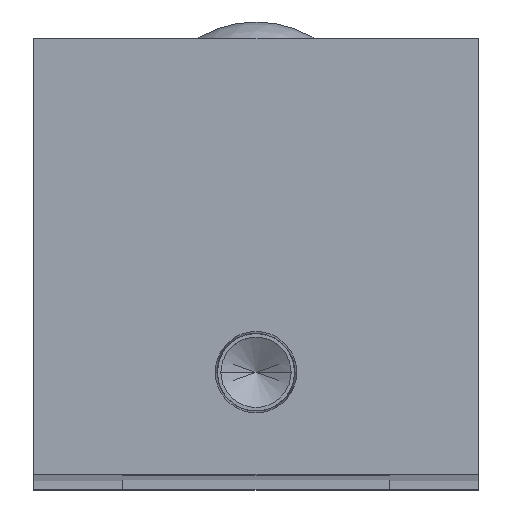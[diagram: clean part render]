
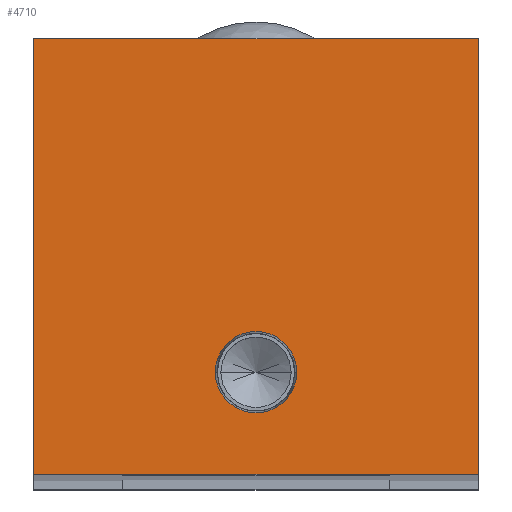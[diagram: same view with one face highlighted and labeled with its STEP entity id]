
A CAD part, top view. The second image highlights one B-rep face of the part: STEP entity #4710.
In plain terms, the highlighted planar face has unit normal (0, 0, 1).
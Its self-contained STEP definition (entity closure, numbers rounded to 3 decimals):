
#48 = VERTEX_POINT ( 'NONE', #5630 ) ;
#161 = CARTESIAN_POINT ( 'NONE',  ( -25., 0., 0. ) ) ;
#356 = PLANE ( 'NONE',  #1660 ) ;
#635 = EDGE_CURVE ( 'NONE', #4175, #6135, #6959, .T. ) ;
#1099 = LINE ( 'NONE', #161, #5453 ) ;
#1302 = ORIENTED_EDGE ( 'NONE', *, *, #4900, .F. ) ;
#1345 = VERTEX_POINT ( 'NONE', #6786 ) ;
#1660 = AXIS2_PLACEMENT_3D ( 'NONE', #4356, #2091, #6067 ) ;
#1779 = DIRECTION ( 'NONE',  ( 0., 0., 1. ) ) ;
#1790 = CARTESIAN_POINT ( 'NONE',  ( -25., 0., 0. ) ) ;
#1951 = EDGE_CURVE ( 'NONE', #5008, #48, #5680, .T. ) ;
#2091 = DIRECTION ( 'NONE',  ( 0., 0., 1. ) ) ;
#2179 = EDGE_LOOP ( 'NONE', ( #5073, #5213, #5506, #7244 ) ) ;
#2249 = CARTESIAN_POINT ( 'NONE',  ( 25., 49., 0. ) ) ;
#2389 = CARTESIAN_POINT ( 'NONE',  ( 0., 11.5, 0. ) ) ;
#2455 = VECTOR ( 'NONE', #6288, 1000. ) ;
#2519 = EDGE_LOOP ( 'NONE', ( #1302, #6345 ) ) ;
#2970 = DIRECTION ( 'NONE',  ( 1., 0., 0. ) ) ;
#3046 = AXIS2_PLACEMENT_3D ( 'NONE', #2389, #6349, #2970 ) ;
#3311 = CARTESIAN_POINT ( 'NONE',  ( -4.574, 11.5, 0. ) ) ;
#3462 = EDGE_CURVE ( 'NONE', #4803, #1345, #6888, .T. ) ;
#3526 = CARTESIAN_POINT ( 'NONE',  ( -25., 49., 0. ) ) ;
#3761 = EDGE_CURVE ( 'NONE', #48, #4175, #4062, .T. ) ;
#4062 = LINE ( 'NONE', #2249, #5399 ) ;
#4175 = VERTEX_POINT ( 'NONE', #3526 ) ;
#4349 = DIRECTION ( 'NONE',  ( 0., 1., 0. ) ) ;
#4356 = CARTESIAN_POINT ( 'NONE',  ( 0., 0., 0. ) ) ;
#4432 = AXIS2_PLACEMENT_3D ( 'NONE', #5183, #1779, #5747 ) ;
#4710 = ADVANCED_FACE ( 'NONE', ( #6331, #6006 ), #356, .T. ) ;
#4803 = VERTEX_POINT ( 'NONE', #3311 ) ;
#4900 = EDGE_CURVE ( 'NONE', #1345, #4803, #6244, .T. ) ;
#4918 = CARTESIAN_POINT ( 'NONE',  ( 25., 0., 0. ) ) ;
#5008 = VERTEX_POINT ( 'NONE', #5233 ) ;
#5073 = ORIENTED_EDGE ( 'NONE', *, *, #1951, .T. ) ;
#5183 = CARTESIAN_POINT ( 'NONE',  ( 0., 11.5, 0. ) ) ;
#5213 = ORIENTED_EDGE ( 'NONE', *, *, #3761, .T. ) ;
#5233 = CARTESIAN_POINT ( 'NONE',  ( 25., 0., 0. ) ) ;
#5239 = DIRECTION ( 'NONE',  ( 1., 0., 0. ) ) ;
#5399 = VECTOR ( 'NONE', #7339, 1000. ) ;
#5453 = VECTOR ( 'NONE', #5239, 1000. ) ;
#5506 = ORIENTED_EDGE ( 'NONE', *, *, #635, .T. ) ;
#5630 = CARTESIAN_POINT ( 'NONE',  ( 25., 49., 0. ) ) ;
#5680 = LINE ( 'NONE', #4918, #6995 ) ;
#5747 = DIRECTION ( 'NONE',  ( 1., 0., 0. ) ) ;
#6006 = FACE_OUTER_BOUND ( 'NONE', #2179, .T. ) ;
#6067 = DIRECTION ( 'NONE',  ( 1., 0., 0. ) ) ;
#6135 = VERTEX_POINT ( 'NONE', #1790 ) ;
#6244 = CIRCLE ( 'NONE', #3046, 4.574 ) ;
#6254 = EDGE_CURVE ( 'NONE', #6135, #5008, #1099, .T. ) ;
#6288 = DIRECTION ( 'NONE',  ( 0., -1., 0. ) ) ;
#6305 = CARTESIAN_POINT ( 'NONE',  ( -25., 49., 0. ) ) ;
#6331 = FACE_BOUND ( 'NONE', #2519, .T. ) ;
#6345 = ORIENTED_EDGE ( 'NONE', *, *, #3462, .F. ) ;
#6349 = DIRECTION ( 'NONE',  ( 0., 0., 1. ) ) ;
#6786 = CARTESIAN_POINT ( 'NONE',  ( 4.573, 11.5, 0. ) ) ;
#6888 = CIRCLE ( 'NONE', #4432, 4.574 ) ;
#6959 = LINE ( 'NONE', #6305, #2455 ) ;
#6995 = VECTOR ( 'NONE', #4349, 1000. ) ;
#7244 = ORIENTED_EDGE ( 'NONE', *, *, #6254, .T. ) ;
#7339 = DIRECTION ( 'NONE',  ( -1., 0., 0. ) ) ;
